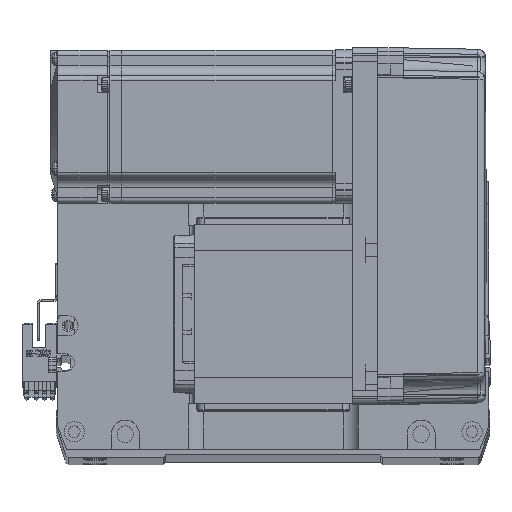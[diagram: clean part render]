
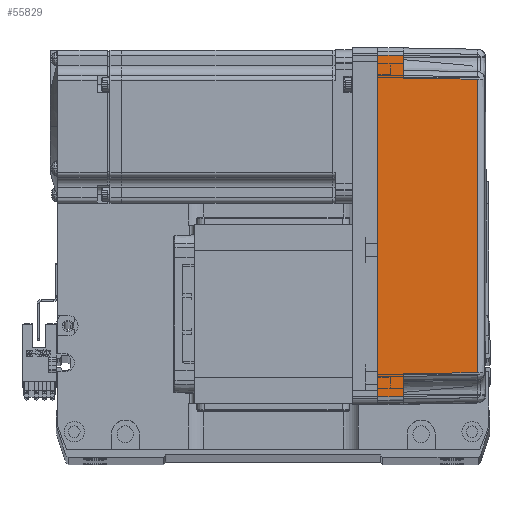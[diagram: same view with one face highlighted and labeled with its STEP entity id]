
A CAD part, top view. The second image highlights one B-rep face of the part: STEP entity #55829.
In plain terms, the highlighted planar face has unit normal (0.018, 0, 1) as drawn and (0, -1, 0.017) by its records, which use the part's own axes.
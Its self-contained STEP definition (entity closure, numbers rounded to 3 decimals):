
#2031 = AXIS2_PLACEMENT_3D ( 'NONE', #17183, #47903, #12726 ) ;
#2290 = CARTESIAN_POINT ( 'NONE',  ( 58., -35.825, 10. ) ) ;
#2394 = VERTEX_POINT ( 'NONE', #25991 ) ;
#4075 = VECTOR ( 'NONE', #30147, 1000. ) ;
#5258 = DIRECTION ( 'NONE',  ( -1., 0., 0. ) ) ;
#6504 = VERTEX_POINT ( 'NONE', #22345 ) ;
#7107 = CARTESIAN_POINT ( 'NONE',  ( 66.826, -35.825, 10. ) ) ;
#7591 = VECTOR ( 'NONE', #5258, 1000. ) ;
#8606 = CARTESIAN_POINT ( 'NONE',  ( -57.495, -35.32, 38.985 ) ) ;
#8683 = CARTESIAN_POINT ( 'NONE',  ( -67., -36., 0. ) ) ;
#9421 = VERTEX_POINT ( 'NONE', #8683 ) ;
#10418 = EDGE_CURVE ( 'NONE', #9421, #6504, #47664, .T. ) ;
#11376 = VERTEX_POINT ( 'NONE', #7107 ) ;
#11524 = EDGE_CURVE ( 'NONE', #33835, #64489, #39006, .T. ) ;
#11612 = CARTESIAN_POINT ( 'NONE',  ( 67., -36., 0. ) ) ;
#12548 = LINE ( 'NONE', #8606, #52888 ) ;
#12726 = DIRECTION ( 'NONE',  ( 0., -0.017, -1. ) ) ;
#12881 = FACE_OUTER_BOUND ( 'NONE', #54285, .T. ) ;
#13366 = EDGE_CURVE ( 'NONE', #2394, #6504, #63828, .T. ) ;
#13523 = CARTESIAN_POINT ( 'NONE',  ( 70., -35.825, 10. ) ) ;
#13674 = CARTESIAN_POINT ( 'NONE',  ( 67., -36., 0. ) ) ;
#14346 = CARTESIAN_POINT ( 'NONE',  ( -19.165, -35.316, 39.181 ) ) ;
#14577 = CARTESIAN_POINT ( 'NONE',  ( -57.495, -35.32, 38.985 ) ) ;
#14805 = CARTESIAN_POINT ( 'NONE',  ( 57.495, -35.32, 38.985 ) ) ;
#17183 = CARTESIAN_POINT ( 'NONE',  ( 70., -36., 0. ) ) ;
#18162 = ORIENTED_EDGE ( 'NONE', *, *, #61292, .T. ) ;
#18764 = CARTESIAN_POINT ( 'NONE',  ( 0., -36., 0. ) ) ;
#22131 = EDGE_CURVE ( 'NONE', #25539, #11376, #36859, .T. ) ;
#22345 = CARTESIAN_POINT ( 'NONE',  ( -66.826, -35.825, 10. ) ) ;
#25021 = ORIENTED_EDGE ( 'NONE', *, *, #11524, .T. ) ;
#25539 = VERTEX_POINT ( 'NONE', #11612 ) ;
#25991 = CARTESIAN_POINT ( 'NONE',  ( -58., -35.825, 10. ) ) ;
#27603 = EDGE_CURVE ( 'NONE', #38449, #33835, #34877, .T. ) ;
#28246 = CARTESIAN_POINT ( 'NONE',  ( -66.959, -35.958, 2.39 ) ) ;
#30147 = DIRECTION ( 'NONE',  ( -0.017, 0.017, 1. ) ) ;
#32690 = ORIENTED_EDGE ( 'NONE', *, *, #13366, .T. ) ;
#32929 = VECTOR ( 'NONE', #38924, 1000. ) ;
#33835 = VERTEX_POINT ( 'NONE', #51857 ) ;
#34877 = LINE ( 'NONE', #35019, #4075 ) ;
#35019 = CARTESIAN_POINT ( 'NONE',  ( 58., -35.825, 10. ) ) ;
#36084 = CARTESIAN_POINT ( 'NONE',  ( -57.495, -35.32, 38.985 ) ) ;
#36859 = LINE ( 'NONE', #13674, #32929 ) ;
#37910 = VECTOR ( 'NONE', #39600, 1000. ) ;
#38449 = VERTEX_POINT ( 'NONE', #2290 ) ;
#38924 = DIRECTION ( 'NONE',  ( -0.017, 0.017, 1. ) ) ;
#39006 = B_SPLINE_CURVE_WITH_KNOTS ( 'NONE', 3,
 ( #14805, #49296, #14346, #14577 ),
 .UNSPECIFIED., .F., .F.,
 ( 4, 4 ),
 ( 0., 1. ),
 .UNSPECIFIED. ) ;
#39600 = DIRECTION ( 'NONE',  ( -1., 0., 0. ) ) ;
#39948 = ORIENTED_EDGE ( 'NONE', *, *, #43430, .T. ) ;
#40681 = ORIENTED_EDGE ( 'NONE', *, *, #27603, .T. ) ;
#40854 = LINE ( 'NONE', #45248, #7591 ) ;
#43430 = EDGE_CURVE ( 'NONE', #11376, #38449, #40854, .T. ) ;
#45248 = CARTESIAN_POINT ( 'NONE',  ( 70., -35.825, 10. ) ) ;
#47620 = ORIENTED_EDGE ( 'NONE', *, *, #22131, .T. ) ;
#47625 = ORIENTED_EDGE ( 'NONE', *, *, #61372, .F. ) ;
#47664 = LINE ( 'NONE', #28246, #57922 ) ;
#47903 = DIRECTION ( 'NONE',  ( 0., -1., 0.017 ) ) ;
#48704 = DIRECTION ( 'NONE',  ( -1., 0., 0. ) ) ;
#49296 = CARTESIAN_POINT ( 'NONE',  ( 19.165, -35.316, 39.181 ) ) ;
#51857 = CARTESIAN_POINT ( 'NONE',  ( 57.495, -35.32, 38.985 ) ) ;
#52568 = DIRECTION ( 'NONE',  ( 0.017, 0.017, 1. ) ) ;
#52888 = VECTOR ( 'NONE', #64482, 1000. ) ;
#54285 = EDGE_LOOP ( 'NONE', ( #47620, #39948, #40681, #25021, #18162, #32690, #65399, #47625 ) ) ;
#55829 = ADVANCED_FACE ( 'NONE', ( #12881 ), #62652, .T. ) ;
#57922 = VECTOR ( 'NONE', #52568, 1000. ) ;
#61292 = EDGE_CURVE ( 'NONE', #64489, #2394, #12548, .T. ) ;
#61372 = EDGE_CURVE ( 'NONE', #25539, #9421, #64710, .T. ) ;
#62652 = PLANE ( 'NONE',  #2031 ) ;
#63828 = LINE ( 'NONE', #13523, #65397 ) ;
#64482 = DIRECTION ( 'NONE',  ( -0.017, -0.017, -1. ) ) ;
#64489 = VERTEX_POINT ( 'NONE', #36084 ) ;
#64710 = LINE ( 'NONE', #18764, #37910 ) ;
#65397 = VECTOR ( 'NONE', #48704, 1000. ) ;
#65399 = ORIENTED_EDGE ( 'NONE', *, *, #10418, .F. ) ;
